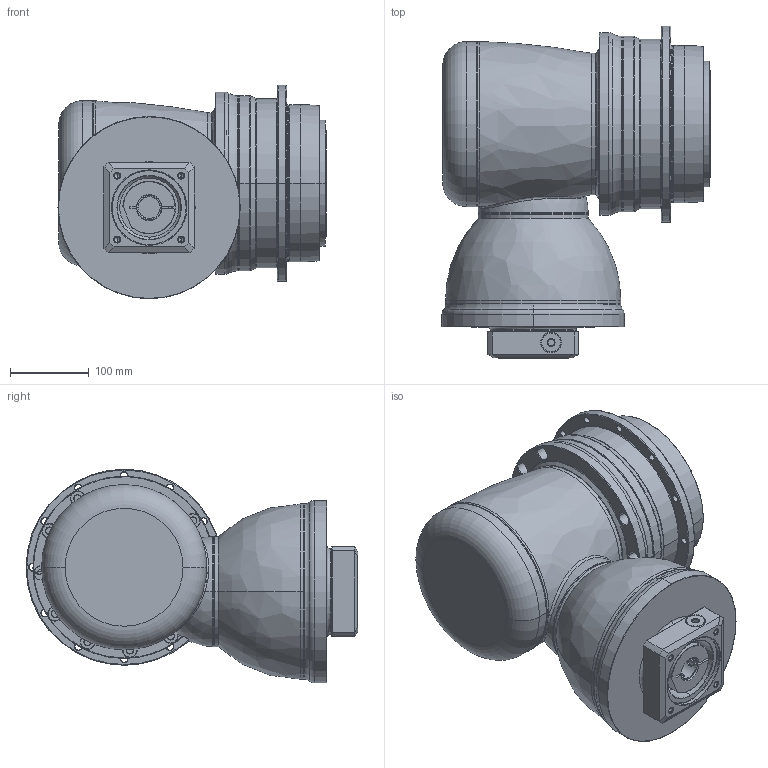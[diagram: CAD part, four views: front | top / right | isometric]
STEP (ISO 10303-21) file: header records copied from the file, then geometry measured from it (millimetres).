
FILE_DESCRIPTION((''),'2;1');
FILE_NAME('AHK200_2ST_24-P0409600101_ASM','2016-10-13T',('d01943'),(''),'PRO/ENGINEER BY PARAMETRIC TECHNOLOGY CORPORATION, 2008410','PRO/ENGINEER BY PARAMETRIC TECHNOLOGY CORPORATION, 2008410','');
FILE_SCHEMA(('CONFIG_CONTROL_DESIGN'));
Length unit declared in the file: millimetre
Products named in the file (12): P1008600002; P1802600011; P0278600003; P0359600002; P1315600001; P1007600001; P1318600501; P0503600010; P0912605201; P0409600101; 21711418017; AHK200_2ST_24-P0409600101_ASM
Assembly tree (11 placements, depth 2):
  AHK200_2ST_24-P0409600101_ASM
    P1008600002
    P1802600011
    P0278600003
    P0359600002
    P1315600001
    P1007600001
    P1318600501
    P0503600010
    P0912605201
    P0409600101
    21711418017
Bounding box: 341 x 422.25 x 271.75 mm (x, y, z)
Volume: 12925269.8 mm3; surface area: 1098316.7 mm2
Topology: 12 solids, 12 shells, 915 faces, 2085 edges, 1210 vertices
Faces by surface type: cylinder 320, cone 294, plane 134, torus 128, bspline 37, sphere 2
Entity records: 31983 total; most frequent: CARTESIAN_POINT 10916, DIRECTION 4850, ORIENTED_EDGE 4046, AXIS2_PLACEMENT_3D 2082, EDGE_CURVE 2023, VERTEX_POINT 1210, CIRCLE 1181, EDGE_LOOP 1055
